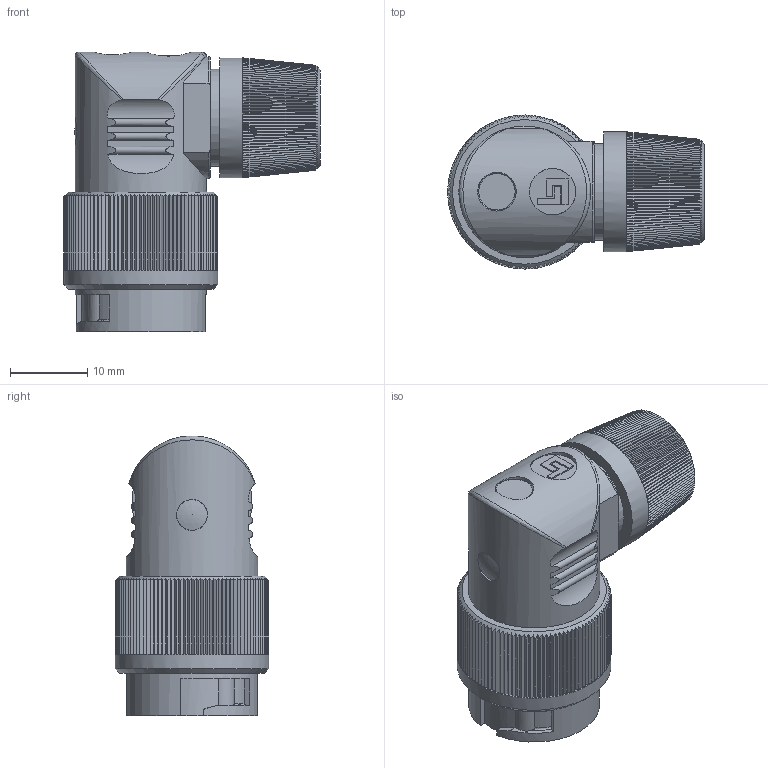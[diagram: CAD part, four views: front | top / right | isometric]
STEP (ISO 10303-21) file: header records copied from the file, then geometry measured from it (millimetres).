
FILE_DESCRIPTION(/* description */ (''),/* implementation_level */ '2;1');
FILE_NAME(/* name */ '99-0602-70-02-001_00.stp',/* time_stamp */ '2012-03-08T09:44:38+01:00',/* author */ (''),/* organization */ (''),/* preprocessor_version */ 'ST-DEVELOPER v11',/* originating_system */ 'SIEMENS UGS NX 6.0',/* authorisation */ '');
FILE_SCHEMA (('CONFIG_CONTROL_DESIGN'));
Length unit declared in the file: millimetre
Products named in the file (1): kborFDFFk3q6
Bounding box: 33.15 x 19.9 x 36.2 mm (x, y, z)
Volume: 10590.7 mm3; surface area: 4698.5 mm2
Topology: 1 solids, 1 shells, 946 faces, 2521 edges, 1602 vertices
Faces by surface type: plane 752, cone 138, cylinder 41, torus 12, bspline 3
Full cylindrical faces by diameter (mm): 1.6 x2, 1.8 x2, 2.25 x1, 4 x1, 4.7 x1, 5 x1, 6 x1, 12.5 x1, 13.95 x1, 15.5 x1, 16.95 x1, 17 x1, 19.9 x1
Entity records: 30495 total; most frequent: CARTESIAN_POINT 8140, ORIENTED_EDGE 4974, DIRECTION 4176, EDGE_CURVE 2487, VERTEX_POINT 1592, AXIS2_PLACEMENT_3D 1506, LINE 1164, VECTOR 1164
